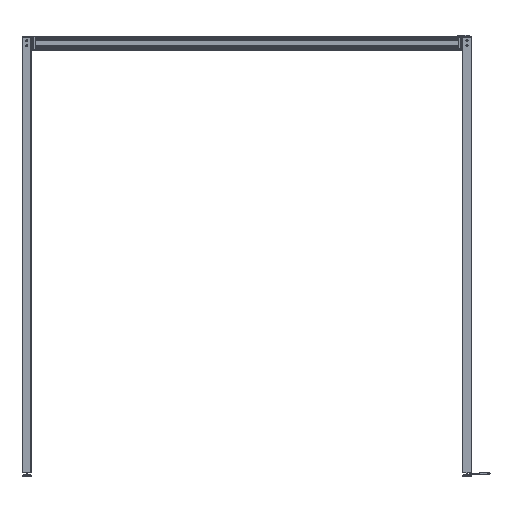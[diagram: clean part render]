
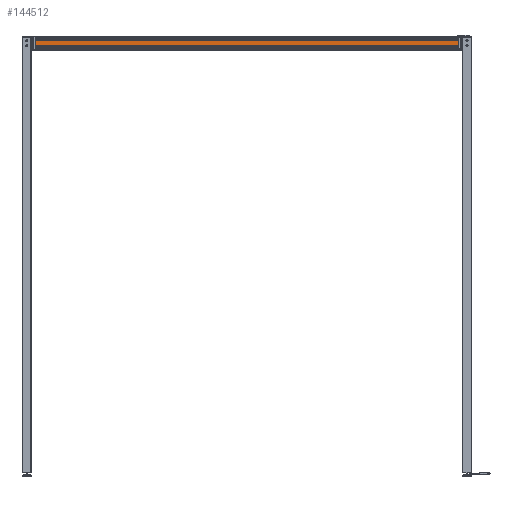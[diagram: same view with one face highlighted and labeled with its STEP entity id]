
A CAD part, left-side view. The second image highlights one B-rep face of the part: STEP entity #144512.
In plain terms, the highlighted planar face has unit normal (-1, 0, 0).
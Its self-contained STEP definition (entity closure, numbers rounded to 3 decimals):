
#429 = AXIS2_PLACEMENT_3D ( 'NONE', #12945, #87842, #182400 ) ;
#2521 = CARTESIAN_POINT ( 'NONE',  ( -591., -3708.5, 436.172 ) ) ;
#3879 = EDGE_CURVE ( 'NONE', #99118, #64824, #189224, .T. ) ;
#12945 = CARTESIAN_POINT ( 'NONE',  ( -591., -5056.5, 398.034 ) ) ;
#17755 = FACE_OUTER_BOUND ( 'NONE', #148517, .T. ) ;
#19720 = EDGE_CURVE ( 'NONE', #99118, #71604, #239427, .T. ) ;
#32187 = LINE ( 'NONE', #107101, #80814 ) ;
#55448 = ORIENTED_EDGE ( 'NONE', *, *, #203187, .F. ) ;
#64824 = VERTEX_POINT ( 'NONE', #116520 ) ;
#71604 = VERTEX_POINT ( 'NONE', #80026 ) ;
#80026 = CARTESIAN_POINT ( 'NONE',  ( -591., -6404.5, 356.034 ) ) ;
#80814 = VECTOR ( 'NONE', #163565, 1000. ) ;
#82086 = VERTEX_POINT ( 'NONE', #82445 ) ;
#82445 = CARTESIAN_POINT ( 'NONE',  ( -591., -6404.5, 440.034 ) ) ;
#83327 = VECTOR ( 'NONE', #100933, 1000. ) ;
#87842 = DIRECTION ( 'NONE',  ( 1., 0., 0. ) ) ;
#95817 = ORIENTED_EDGE ( 'NONE', *, *, #217550, .F. ) ;
#99118 = VERTEX_POINT ( 'NONE', #225723 ) ;
#100933 = DIRECTION ( 'NONE',  ( 0., -1., 0. ) ) ;
#107101 = CARTESIAN_POINT ( 'NONE',  ( -591., -6404.5, 436.172 ) ) ;
#110420 = CARTESIAN_POINT ( 'NONE',  ( -591., -3708.5, 356.034 ) ) ;
#116520 = CARTESIAN_POINT ( 'NONE',  ( -591., -3708.5, 440.034 ) ) ;
#119351 = LINE ( 'NONE', #194301, #83327 ) ;
#133905 = DIRECTION ( 'NONE',  ( 0., 0., 1. ) ) ;
#143051 = ORIENTED_EDGE ( 'NONE', *, *, #19720, .T. ) ;
#144512 = ADVANCED_FACE ( 'NONE', ( #17755 ), #240130, .F. ) ;
#148517 = EDGE_LOOP ( 'NONE', ( #95817, #170973, #143051, #55448 ) ) ;
#149674 = DIRECTION ( 'NONE',  ( 0., -1., 0. ) ) ;
#163565 = DIRECTION ( 'NONE',  ( 0., 0., -1. ) ) ;
#165965 = VECTOR ( 'NONE', #133905, 1000. ) ;
#170973 = ORIENTED_EDGE ( 'NONE', *, *, #3879, .F. ) ;
#182400 = DIRECTION ( 'NONE',  ( 0., 0., -1. ) ) ;
#183840 = VECTOR ( 'NONE', #149674, 1000. ) ;
#189224 = LINE ( 'NONE', #2521, #165965 ) ;
#194301 = CARTESIAN_POINT ( 'NONE',  ( -591., -3708.5, 440.034 ) ) ;
#203187 = EDGE_CURVE ( 'NONE', #82086, #71604, #32187, .T. ) ;
#217550 = EDGE_CURVE ( 'NONE', #64824, #82086, #119351, .T. ) ;
#225723 = CARTESIAN_POINT ( 'NONE',  ( -591., -3708.5, 356.034 ) ) ;
#239427 = LINE ( 'NONE', #110420, #183840 ) ;
#240130 = PLANE ( 'NONE',  #429 ) ;
